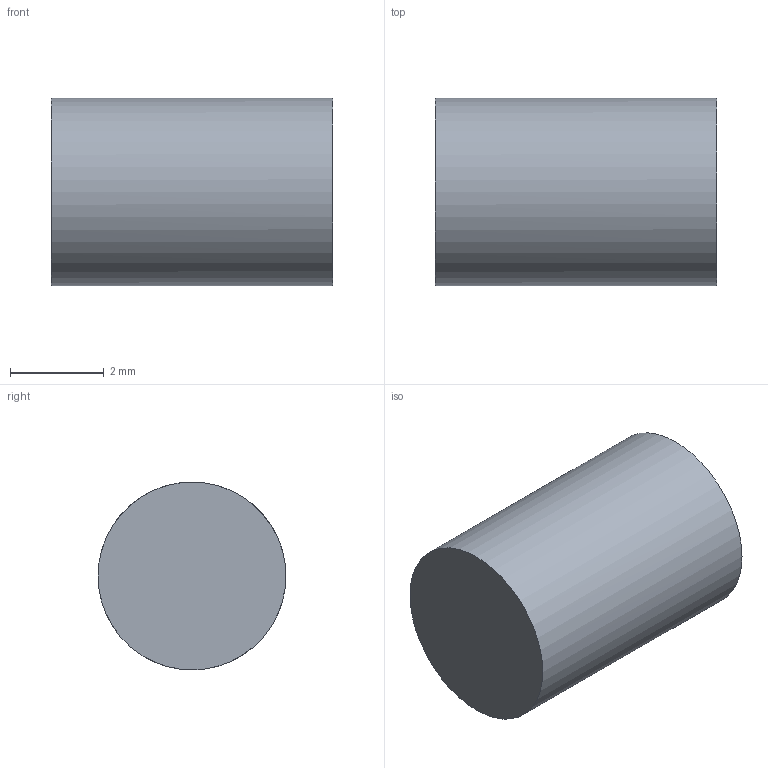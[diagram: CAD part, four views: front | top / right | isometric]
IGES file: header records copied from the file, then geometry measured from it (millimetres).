
Global section: file name: RODB-04L06; native system: Autodesk Inventor 2015; preprocessor: unknown; author: r.sato; date: 20161102.184743; units: millimetre
Bounding box: 6 x 4 x 4 mm (x, y, z)
Volume: 75.5 mm3; surface area: 100.7 mm2
Topology: 1 solids, 1 shells, 3 faces, 3 edges, 2 vertices
Faces by surface type: bspline 3
